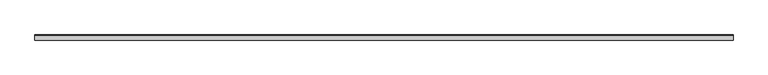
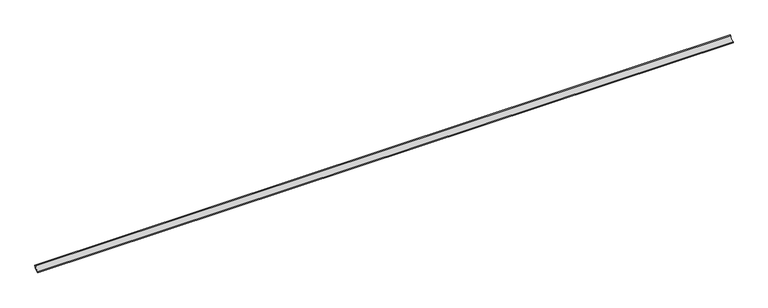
"""IFC4 building model written with IfcOpenShell, lengths in millimetres: proxy geometry, EXAGRES - Piscina Mediacaña : Publica_Azul_24.5x4cm."""

from ifc_helpers import new_model, si_unit, point, frame, frame_2d, origin, place, context, project, spatial, polyline, circle_curve, trimmed, segment, composite_curve, outline, extrude, source, transform, mapped, element, save


def generic_models_3936827f(model_context):
    return source(origin(), model_context, "Body", "SweptSolid", [
        extrude(outline(composite_curve([segment(polyline([(0.0, 23.9), (6.4, 23.9)]), True, "CONTINUOUS"), segment(trimmed(circle_curve(frame_2d((-23.9, 23.9)), 30.3), [point((6.4, 23.9))], [point((-23.9, -6.4))], False, "CARTESIAN"), True, "CONTINUOUS"), segment(polyline([(-23.9, -6.4), (-23.9, 0.0)]), True, "CONTINUOUS"), segment(trimmed(circle_curve(frame_2d((-23.9, 23.9)), 23.9), [point((-23.9, 0.0))], [point((0.0, 23.9))], True, "CARTESIAN"), True, "CONTINUOUS")], self_intersect=False)), frame((0.0, 0.0, 0.0), z_axis=(1.0, 0.0, 0.0), x_axis=(0.0, 1.0, 0.0)), (0.0, 0.0, 1.0), 4140.0),
    ])


if __name__ == "__main__":
    model = new_model("IFC4")
    model_context = context("Model", 3, world=origin())
    ifc_project = project(units=[si_unit("LENGTHUNIT", "METRE", prefix="MILLI")], contexts=[model_context])
    site = spatial("IfcSite", under=ifc_project)
    building = spatial("IfcBuilding", under=site)
    placement = place(None, origin())
    generic_models_shape = generic_models_3936827f(model_context)
    element("IfcBuildingElementProxy", 1, Name="EXAGRES - Piscina Mediacaña : Publica_Azul_24.5x4cm", ObjectType="EXAGRES - Piscina Mediacaña : Publica_Azul_24.5x4cm", at=placement, inside=building, context=model_context, shape_type="MappedRepresentation", body=[
        mapped(generic_models_shape, transform((0.0, 0.0, 0.0), x_axis=(1.0, 0.0, 0.0), y_axis=(0.0, 1.0, 0.0), z_axis=(0.0, 0.0, 1.0))),
    ])
    save(model, "model.ifc")
